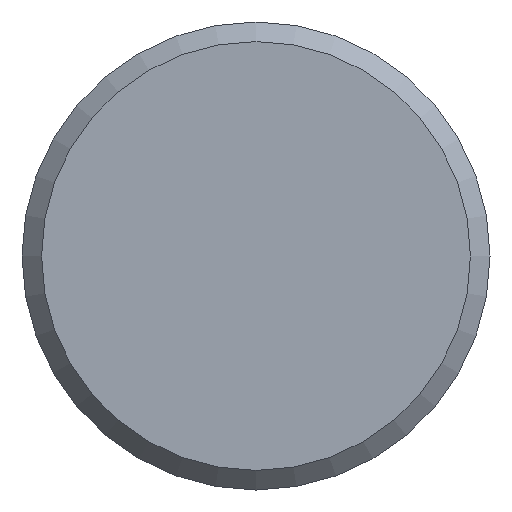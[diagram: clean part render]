
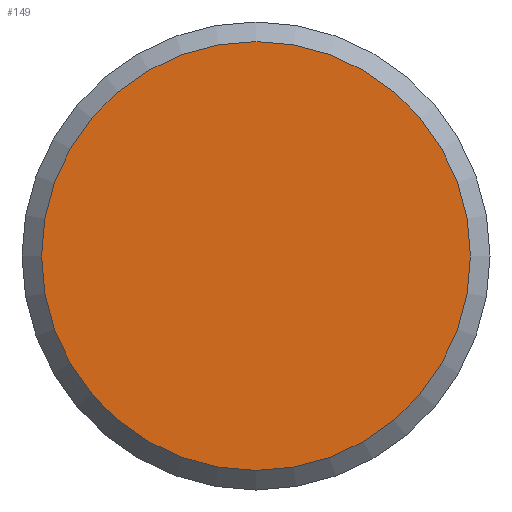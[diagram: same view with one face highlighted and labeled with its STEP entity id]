
A CAD part, left-side view. The second image highlights one B-rep face of the part: STEP entity #149.
In plain terms, the highlighted planar face has unit normal (-1, 0, 0).
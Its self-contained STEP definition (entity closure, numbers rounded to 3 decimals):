
#18=PLANE('',#190);
#28=FACE_OUTER_BOUND('',#38,.T.);
#38=EDGE_LOOP('',(#123));
#61=CIRCLE('',#189,25.2);
#74=VERTEX_POINT('',#278);
#91=EDGE_CURVE('',#74,#74,#61,.T.);
#123=ORIENTED_EDGE('',*,*,#91,.F.);
#149=ADVANCED_FACE('',(#28),#18,.T.);
#189=AXIS2_PLACEMENT_3D('',#280,#236,#237);
#190=AXIS2_PLACEMENT_3D('',#281,#238,#239);
#236=DIRECTION('center_axis',(1.,0.,0.));
#237=DIRECTION('ref_axis',(0.,-1.,0.));
#238=DIRECTION('center_axis',(-1.,0.,0.));
#239=DIRECTION('ref_axis',(0.,0.,1.));
#278=CARTESIAN_POINT('',(0.,25.2,0.));
#280=CARTESIAN_POINT('Origin',(0.,0.,0.));
#281=CARTESIAN_POINT('Origin',(0.,27.5,0.));
